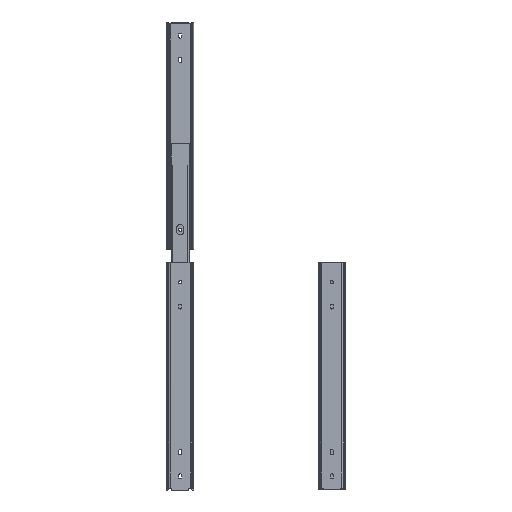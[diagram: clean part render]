
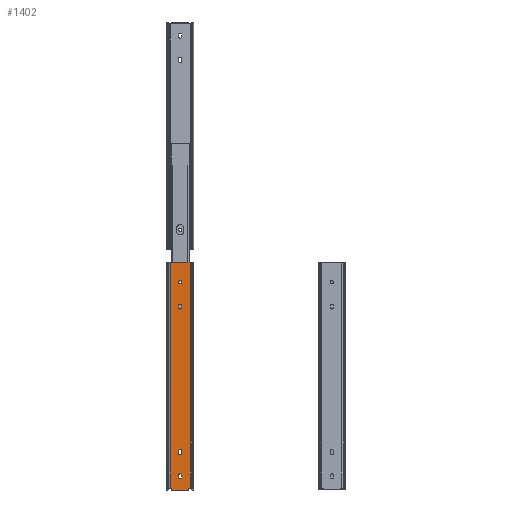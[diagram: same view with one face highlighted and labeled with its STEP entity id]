
A CAD part, left-side view. The second image highlights one B-rep face of the part: STEP entity #1402.
In plain terms, the highlighted planar face has unit normal (-1, 0, 0).
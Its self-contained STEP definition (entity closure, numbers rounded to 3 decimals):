
#112=CARTESIAN_POINT('',(0.,-2.15,20.437));
#113=VERTEX_POINT('',#112);
#114=CARTESIAN_POINT('',(0.,-2.15,15.563));
#115=VERTEX_POINT('',#114);
#116=CARTESIAN_POINT('',(0.,-2.15,20.437));
#117=DIRECTION('',(0.0,0.0,-1.0));
#118=VECTOR('',#117,4.874);
#119=LINE('',#116,#118);
#120=EDGE_CURVE('',#113,#115,#119,.T.);
#152=CARTESIAN_POINT('',(0.,2.15,15.563));
#153=VERTEX_POINT('',#152);
#154=CARTESIAN_POINT('',(0.,0.0,18.));
#155=DIRECTION('',(1.0,0.0,0.0));
#156=DIRECTION('',(0.0,0.0,-1.0));
#157=AXIS2_PLACEMENT_3D('',#154,#155,#156);
#158=CIRCLE('',#157,3.25);
#159=EDGE_CURVE('',#115,#153,#158,.T.);
#185=CARTESIAN_POINT('',(0.,2.15,20.437));
#186=VERTEX_POINT('',#185);
#187=CARTESIAN_POINT('',(0.,2.15,15.563));
#188=DIRECTION('',(0.0,0.0,1.0));
#189=VECTOR('',#188,4.874);
#190=LINE('',#187,#189);
#191=EDGE_CURVE('',#153,#186,#190,.T.);
#216=CARTESIAN_POINT('',(0.,0.0,18.));
#217=DIRECTION('',(1.0,0.0,0.0));
#218=DIRECTION('',(0.0,0.0,-1.0));
#219=AXIS2_PLACEMENT_3D('',#216,#217,#218);
#220=CIRCLE('',#219,3.25);
#221=EDGE_CURVE('',#186,#113,#220,.T.);
#240=CARTESIAN_POINT('',(0.,-2.15,52.437));
#241=VERTEX_POINT('',#240);
#242=CARTESIAN_POINT('',(0.,-2.15,47.563));
#243=VERTEX_POINT('',#242);
#244=CARTESIAN_POINT('',(0.,-2.15,52.437));
#245=DIRECTION('',(0.0,0.0,-1.0));
#246=VECTOR('',#245,4.874);
#247=LINE('',#244,#246);
#248=EDGE_CURVE('',#241,#243,#247,.T.);
#280=CARTESIAN_POINT('',(0.,2.15,47.563));
#281=VERTEX_POINT('',#280);
#282=CARTESIAN_POINT('',(0.,0.0,50.));
#283=DIRECTION('',(1.0,0.0,0.0));
#284=DIRECTION('',(0.0,0.0,-1.0));
#285=AXIS2_PLACEMENT_3D('',#282,#283,#284);
#286=CIRCLE('',#285,3.25);
#287=EDGE_CURVE('',#243,#281,#286,.T.);
#313=CARTESIAN_POINT('',(0.,2.15,52.437));
#314=VERTEX_POINT('',#313);
#315=CARTESIAN_POINT('',(0.,2.15,47.563));
#316=DIRECTION('',(0.0,0.0,1.0));
#317=VECTOR('',#316,4.874);
#318=LINE('',#315,#317);
#319=EDGE_CURVE('',#281,#314,#318,.T.);
#344=CARTESIAN_POINT('',(0.,0.0,50.));
#345=DIRECTION('',(1.0,0.0,0.0));
#346=DIRECTION('',(0.0,0.0,-1.0));
#347=AXIS2_PLACEMENT_3D('',#344,#345,#346);
#348=CIRCLE('',#347,3.25);
#349=EDGE_CURVE('',#314,#241,#348,.T.);
#368=CARTESIAN_POINT('',(0.,2.15,239.563));
#369=VERTEX_POINT('',#368);
#370=CARTESIAN_POINT('',(0.,2.15,244.437));
#371=VERTEX_POINT('',#370);
#372=CARTESIAN_POINT('',(0.,2.15,239.563));
#373=DIRECTION('',(0.0,0.0,1.0));
#374=VECTOR('',#373,4.874);
#375=LINE('',#372,#374);
#376=EDGE_CURVE('',#369,#371,#375,.T.);
#408=CARTESIAN_POINT('',(0.,-2.15,244.437));
#409=VERTEX_POINT('',#408);
#410=CARTESIAN_POINT('',(0.,0.0,242.0));
#411=DIRECTION('',(1.0,0.0,0.0));
#412=DIRECTION('',(0.0,0.0,-1.0));
#413=AXIS2_PLACEMENT_3D('',#410,#411,#412);
#414=CIRCLE('',#413,3.25);
#415=EDGE_CURVE('',#371,#409,#414,.T.);
#441=CARTESIAN_POINT('',(0.,-2.15,239.563));
#442=VERTEX_POINT('',#441);
#443=CARTESIAN_POINT('',(0.,-2.15,244.437));
#444=DIRECTION('',(0.0,0.0,-1.0));
#445=VECTOR('',#444,4.874);
#446=LINE('',#443,#445);
#447=EDGE_CURVE('',#409,#442,#446,.T.);
#472=CARTESIAN_POINT('',(0.,0.0,242.0));
#473=DIRECTION('',(1.0,0.0,0.0));
#474=DIRECTION('',(0.0,0.0,-1.0));
#475=AXIS2_PLACEMENT_3D('',#472,#473,#474);
#476=CIRCLE('',#475,3.25);
#477=EDGE_CURVE('',#442,#369,#476,.T.);
#496=CARTESIAN_POINT('',(0.,0.,271.85));
#497=VERTEX_POINT('',#496);
#498=CARTESIAN_POINT('',(0.,0.0,274.0));
#499=DIRECTION('',(1.0,0.0,0.0));
#500=DIRECTION('',(0.0,0.0,1.0));
#501=AXIS2_PLACEMENT_3D('',#498,#499,#500);
#502=CIRCLE('',#501,2.15);
#503=EDGE_CURVE('',#497,#497,#502,.T.);
#677=CARTESIAN_POINT('',(0.,-12.991,2.599));
#678=VERTEX_POINT('',#677);
#690=CARTESIAN_POINT('',(0.,-11.43,1.1));
#691=VERTEX_POINT('',#690);
#692=CARTESIAN_POINT('',(0.,-12.93,1.1));
#693=DIRECTION('',(1.0,0.,0.));
#694=DIRECTION('',(0.,-0.707,0.707));
#695=AXIS2_PLACEMENT_3D('',#692,#693,#694);
#696=CIRCLE('',#695,1.5);
#697=EDGE_CURVE('',#691,#678,#696,.T.);
#744=CARTESIAN_POINT('',(0.,-11.43,0.));
#745=VERTEX_POINT('',#744);
#746=CARTESIAN_POINT('',(0.,-11.43,0.));
#747=DIRECTION('',(0.0,0.0,1.0));
#748=VECTOR('',#747,1.1);
#749=LINE('',#746,#748);
#750=EDGE_CURVE('',#745,#691,#749,.T.);
#885=CARTESIAN_POINT('',(0.,11.43,1.1));
#886=VERTEX_POINT('',#885);
#893=CARTESIAN_POINT('',(0.0,12.991,2.599));
#894=VERTEX_POINT('',#893);
#895=CARTESIAN_POINT('',(0.,12.93,1.1));
#896=DIRECTION('',(1.0,0.0,0.0));
#897=DIRECTION('',(0.0,-1.0,0.0));
#898=AXIS2_PLACEMENT_3D('',#895,#896,#897);
#899=CIRCLE('',#898,1.5);
#900=EDGE_CURVE('',#894,#886,#899,.T.);
#922=CARTESIAN_POINT('',(0.,11.43,0.));
#923=VERTEX_POINT('',#922);
#930=CARTESIAN_POINT('',(0.,11.43,1.1));
#931=DIRECTION('',(0.0,0.0,-1.0));
#932=VECTOR('',#931,1.1);
#933=LINE('',#930,#932);
#934=EDGE_CURVE('',#886,#923,#933,.T.);
#963=CARTESIAN_POINT('',(0.,-12.991,300.0));
#964=VERTEX_POINT('',#963);
#972=CARTESIAN_POINT('',(0.,-12.991,2.599));
#973=DIRECTION('',(0.0,0.0,1.0));
#974=VECTOR('',#973,297.401);
#975=LINE('',#972,#974);
#976=EDGE_CURVE('',#678,#964,#975,.T.);
#1244=CARTESIAN_POINT('',(0.0,12.991,300.0));
#1245=VERTEX_POINT('',#1244);
#1246=CARTESIAN_POINT('',(0.0,12.991,2.599));
#1247=DIRECTION('',(0.0,0.0,1.0));
#1248=VECTOR('',#1247,297.401);
#1249=LINE('',#1246,#1248);
#1250=EDGE_CURVE('',#894,#1245,#1249,.T.);
#1356=CARTESIAN_POINT('',(0.,-12.991,0.0));
#1357=DIRECTION('',(-1.0,0.0,0.0));
#1358=DIRECTION('',(0.0,0.0,1.0));
#1359=AXIS2_PLACEMENT_3D('',#1356,#1357,#1358);
#1360=PLANE('',#1359);
#1361=ORIENTED_EDGE('',*,*,#697,.T.);
#1362=ORIENTED_EDGE('',*,*,#976,.T.);
#1363=CARTESIAN_POINT('',(0.,-12.991,300.0));
#1364=DIRECTION('',(0.0,1.0,0.0));
#1365=VECTOR('',#1364,25.982);
#1366=LINE('',#1363,#1365);
#1367=EDGE_CURVE('',#964,#1245,#1366,.T.);
#1368=ORIENTED_EDGE('',*,*,#1367,.T.);
#1369=ORIENTED_EDGE('',*,*,#1250,.F.);
#1370=ORIENTED_EDGE('',*,*,#900,.T.);
#1371=ORIENTED_EDGE('',*,*,#934,.T.);
#1372=CARTESIAN_POINT('',(0.,-11.43,0.0));
#1373=DIRECTION('',(0.0,1.0,0.0));
#1374=VECTOR('',#1373,22.86);
#1375=LINE('',#1372,#1374);
#1376=EDGE_CURVE('',#745,#923,#1375,.T.);
#1377=ORIENTED_EDGE('',*,*,#1376,.F.);
#1378=ORIENTED_EDGE('',*,*,#750,.T.);
#1379=EDGE_LOOP('',(#1361,#1362,#1368,#1369,#1370,#1371,#1377,#1378));
#1380=FACE_OUTER_BOUND('',#1379,.T.);
#1381=ORIENTED_EDGE('',*,*,#191,.T.);
#1382=ORIENTED_EDGE('',*,*,#221,.T.);
#1383=ORIENTED_EDGE('',*,*,#120,.T.);
#1384=ORIENTED_EDGE('',*,*,#159,.T.);
#1385=EDGE_LOOP('',(#1381,#1382,#1383,#1384));
#1386=FACE_BOUND('',#1385,.T.);
#1387=ORIENTED_EDGE('',*,*,#319,.T.);
#1388=ORIENTED_EDGE('',*,*,#349,.T.);
#1389=ORIENTED_EDGE('',*,*,#248,.T.);
#1390=ORIENTED_EDGE('',*,*,#287,.T.);
#1391=EDGE_LOOP('',(#1387,#1388,#1389,#1390));
#1392=FACE_BOUND('',#1391,.T.);
#1393=ORIENTED_EDGE('',*,*,#447,.T.);
#1394=ORIENTED_EDGE('',*,*,#477,.T.);
#1395=ORIENTED_EDGE('',*,*,#376,.T.);
#1396=ORIENTED_EDGE('',*,*,#415,.T.);
#1397=EDGE_LOOP('',(#1393,#1394,#1395,#1396));
#1398=FACE_BOUND('',#1397,.T.);
#1399=ORIENTED_EDGE('',*,*,#503,.T.);
#1400=EDGE_LOOP('',(#1399));
#1401=FACE_BOUND('',#1400,.T.);
#1402=ADVANCED_FACE('',(#1380,#1386,#1392,#1398,#1401),#1360,.T.);
